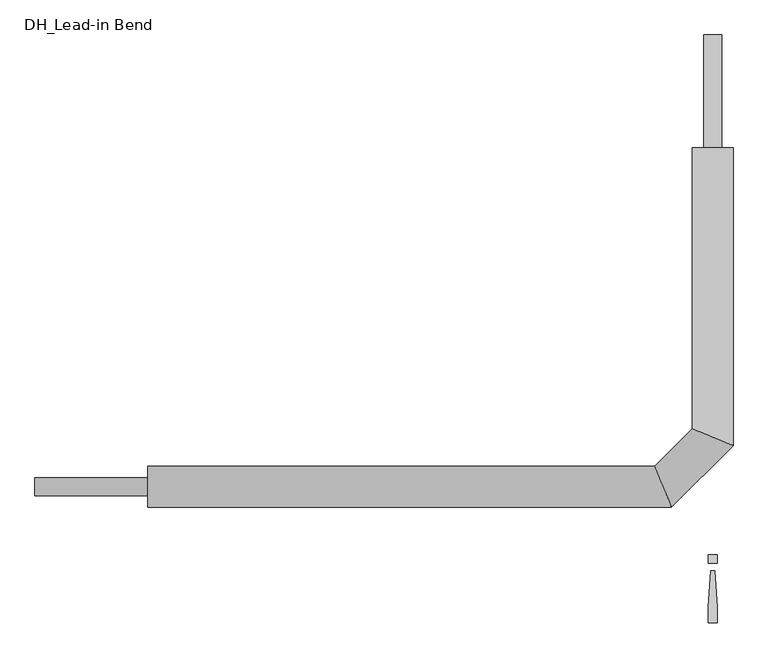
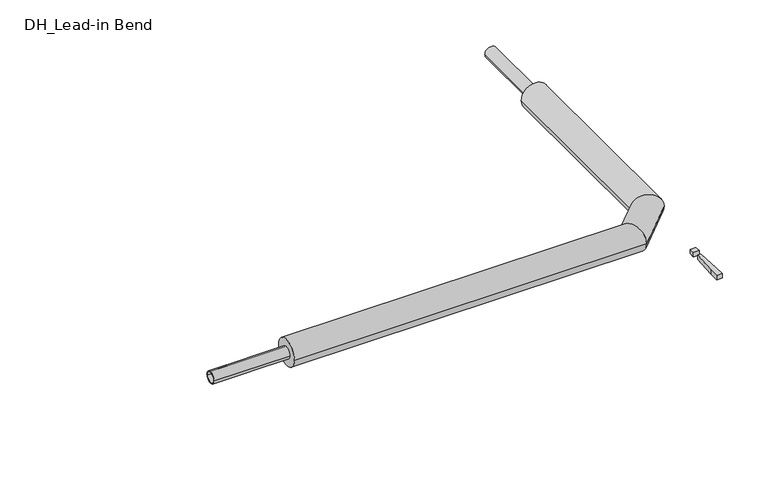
"""IFC4 building model written with IfcOpenShell, lengths in millimetres: pipe fitting geometry, DH_Lead-in Bend : INSULPEX UNO 11 Heating."""

from ifc_helpers import new_model, si_unit, point, frame, origin, origin_with_axes, origin_2d, place, context, project, spatial, polyline, circle_curve, ellipse_curve, trimmed, segment, composite_curve, outline, extrude, source, transform, mapped, element, save
from ifc_brep_helpers import plane_surface, cylinder_surface, advanced_brep


def dh_lead_in_bend_92c5b351(model_context):
    return source(origin(), model_context, "Body", "SolidModel", [
        advanced_brep(
        [(-1250.0, -45.0, 0.0), (-1250.0, 45.0, 0.0), (-91.3603897, -45.0, 0.0), (-128.6396103, 45.0, 0.0), (45.0, 750.0, 0.0), (-45.0, 750.0, 0.0), (-45.0, 128.6396103, 0.0), (45.0, 91.3603897, 0.0)],
        [
            (0, 1, circle_curve(frame((-1250.0, 0.0, 0.0), z_axis=(-1.0, 0.0, 0.0), x_axis=(0.0, 1.0, 0.0)), 45.0)),
            (1, 0, circle_curve(frame((-1250.0, 0.0, 0.0), z_axis=(-1.0, 0.0, 0.0), x_axis=(0.0, 1.0, 0.0)), 45.0)),
            (0, 2),
            (2, 3, ellipse_curve(frame((-110.0, 0.0, 0.0), z_axis=(-0.9238795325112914, -0.3826834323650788, 0.0), x_axis=(-0.38268343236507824, 0.9238795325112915, 0.0)), 48.707649, 45.0)),
            (3, 1),
            (3, 2, ellipse_curve(frame((-110.0, 0.0, 0.0), z_axis=(-0.9238795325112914, -0.3826834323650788, 0.0), x_axis=(-0.38268343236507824, 0.9238795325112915, 0.0)), 48.707649, 45.0)),
            (4, 5, circle_curve(frame((0.0, 750.0, 0.0), z_axis=(0.0, 1.0, 0.0), x_axis=(-1.0, 0.0, 0.0)), 45.0)),
            (5, 4, circle_curve(frame((0.0, 750.0, 0.0), z_axis=(0.0, 1.0, 0.0), x_axis=(-1.0, 0.0, 0.0)), 45.0)),
            (6, 7, ellipse_curve(frame((0.0, 110.0, 0.0), z_axis=(0.38268343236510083, 0.9238795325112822, 0.0), x_axis=(0.9238795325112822, -0.3826834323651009, 0.0)), 48.707649, 45.0)),
            (7, 4),
            (5, 6),
            (7, 6, ellipse_curve(frame((0.0, 110.0, 0.0), z_axis=(0.38268343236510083, 0.9238795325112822, 0.0), x_axis=(0.9238795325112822, -0.3826834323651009, 0.0)), 48.707649, 45.0)),
            (2, 7),
            (6, 3),
        ],
        [
            plane_surface(frame((-1250.0, 0.0, 0.0), z_axis=(-1.0, 0.0, 0.0), x_axis=(0.0, 0.0, 1.0))),
            cylinder_surface(frame((-1250.0, 0.0, 0.0), z_axis=(-1.0, 0.0, 0.0), x_axis=(0.0, 1.0, 0.0)), 45.0),
            plane_surface(frame((0.0, 750.0, 0.0), z_axis=(0.0, 1.0, 0.0), x_axis=(0.0, 0.0, 1.0))),
            cylinder_surface(frame((0.0, 110.0, 0.0), z_axis=(0.0, -1.0, 0.0), x_axis=(-1.0, 0.0, 0.0)), 45.0),
            cylinder_surface(frame((-110.0, 0.0, 0.0), z_axis=(-0.7071067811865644, -0.7071067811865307, 0.0), x_axis=(-0.7071067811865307, 0.7071067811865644, 0.0)), 45.0),
        ],
        [
            (0, [[1, 2]]),
            (1, [[-1, 3, 4, 5]]),
            (1, [[-2, -5, 6, -3]]),
            (2, [[7, 8]]),
            (3, [[9, 10, -8, 11]]),
            (3, [[12, -11, -7, -10]]),
            (4, [[-4, 13, -9, 14]]),
            (4, [[-6, -14, -12, -13]]),
        ],
    ),
        extrude(outline(polyline([(4.7088895, -185.3166715), (9.4177791, -266.6553807), (9.4177791, -300.6844652), (-9.4177791, -300.6844652), (-9.4177791, -266.6553807), (-4.7088895, -185.3166715), (4.7088895, -185.3166715)])), origin_with_axes(), (0.0, 0.0, 1.0), 15.0),
        extrude(outline(polyline([(9.4177791, -150.0), (9.4177791, -168.8355582), (-9.4177791, -168.8355582), (-9.4177791, -150.0), (9.4177791, -150.0)])), origin_with_axes(), (0.0, 0.0, 1.0), 15.0),
        extrude(outline(composite_curve([segment(trimmed(circle_curve(origin_2d(), 20.0), [point((-20.0, 0.0))], [point((20.0, 0.0))], False, "CARTESIAN"), True, "CONTINUOUS"), segment(trimmed(circle_curve(origin_2d(), 20.0), [point((20.0, 0.0))], [point((-20.0, 0.0))], False, "CARTESIAN"), True, "CONTINUOUS")], self_intersect=False), holes=[composite_curve([segment(trimmed(circle_curve(origin_2d(), 16.3), [point((-16.3, 0.0))], [point((16.3, 0.0))], True, "CARTESIAN"), True, "CONTINUOUS"), segment(trimmed(circle_curve(origin_2d(), 16.3), [point((16.3, 0.0))], [point((-16.3, 0.0))], True, "CARTESIAN"), True, "CONTINUOUS")], self_intersect=False)]), frame((-1500.0, 0.0, 0.0), z_axis=(1.0, 0.0, 0.0), x_axis=(0.0, 1.0, 0.0)), (0.0, 0.0, 1.0), 250.0),
        extrude(outline(composite_curve([segment(trimmed(circle_curve(origin_2d(), 20.0), [point((0.0, 20.0))], [point((0.0, -20.0))], False, "CARTESIAN"), True, "CONTINUOUS"), segment(trimmed(circle_curve(origin_2d(), 20.0), [point((0.0, -20.0))], [point((0.0, 20.0))], False, "CARTESIAN"), True, "CONTINUOUS")], self_intersect=False), holes=[composite_curve([segment(trimmed(circle_curve(origin_2d(), 16.3), [point((0.0, 16.3))], [point((0.0, -16.3))], True, "CARTESIAN"), True, "CONTINUOUS"), segment(trimmed(circle_curve(origin_2d(), 16.3), [point((0.0, -16.3))], [point((0.0, 16.3))], True, "CARTESIAN"), True, "CONTINUOUS")], self_intersect=False)]), frame((0.0, 750.0, 0.0), z_axis=(0.0, 1.0, 0.0), x_axis=(0.0, 0.0, 1.0)), (0.0, 0.0, 1.0), 250.0),
    ])


if __name__ == "__main__":
    model = new_model("IFC4")
    model_context = context("Model", 3, world=origin())
    ifc_project = project(units=[si_unit("LENGTHUNIT", "METRE", prefix="MILLI")], contexts=[model_context])
    site = spatial("IfcSite", under=ifc_project)
    building = spatial("IfcBuilding", under=site)
    placement = place(None, origin())
    dh_lead_in_bend_shape = dh_lead_in_bend_92c5b351(model_context)
    element("IfcPipeFitting", 1, ObjectType="DH_Lead-in Bend : INSULPEX UNO 11 Heating", at=placement, inside=building, context=model_context, shape_type="MappedRepresentation", body=[
        mapped(dh_lead_in_bend_shape, transform((0.0, 0.0, 0.0), x_axis=(1.0, 0.0, 0.0), y_axis=(0.0, 1.0, 0.0), z_axis=(0.0, 0.0, 1.0))),
    ])
    save(model, "model.ifc")
